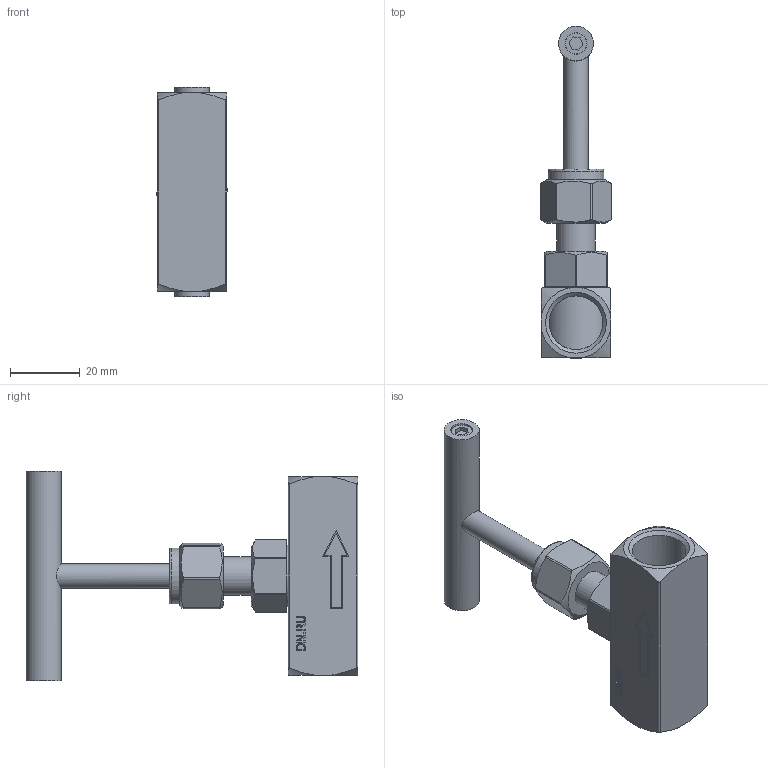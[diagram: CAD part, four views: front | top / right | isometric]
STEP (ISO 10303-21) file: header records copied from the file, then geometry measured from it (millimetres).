
FILE_DESCRIPTION(('STEP AP214'), '1');
FILE_NAME('VN3131M-T-Ht 孰囡囗 桡铍囹 DN.ru 捏10 畜400', '', ('UNSPECIFIED'), ('UNSPECIFIED'), 'C3D Converter', 'C3D Toolkit', '');
FILE_SCHEMA(('AUTOMOTIVE_DESIGN { 1 0 10303 214 3 1 1}'));
Length unit declared in the file: millimetre
Products named in the file (1): VN3131M-T-Ht
Bounding box: 20.57 x 95 x 60 mm (x, y, z)
Volume: 28612 mm3; surface area: 12399.2 mm2
Topology: 1 solids, 1 shells, 174 faces, 442 edges, 293 vertices
Faces by surface type: plane 108, cylinder 29, bspline 23, cone 13, torus 1
Full cylindrical faces by diameter (mm): 6 x2, 6.2 x2, 7 x1, 10 x1, 11 x1, 15.39 x2, 16 x1, 18 x1
Entity records: 12348 total; most frequent: CARTESIAN_POINT 7046, ORIENTED_EDGE 850, DIRECTION 660, EDGE_CURVE 425, VERTEX_POINT 293, LINE 264, VECTOR 264, EDGE_LOOP 214
